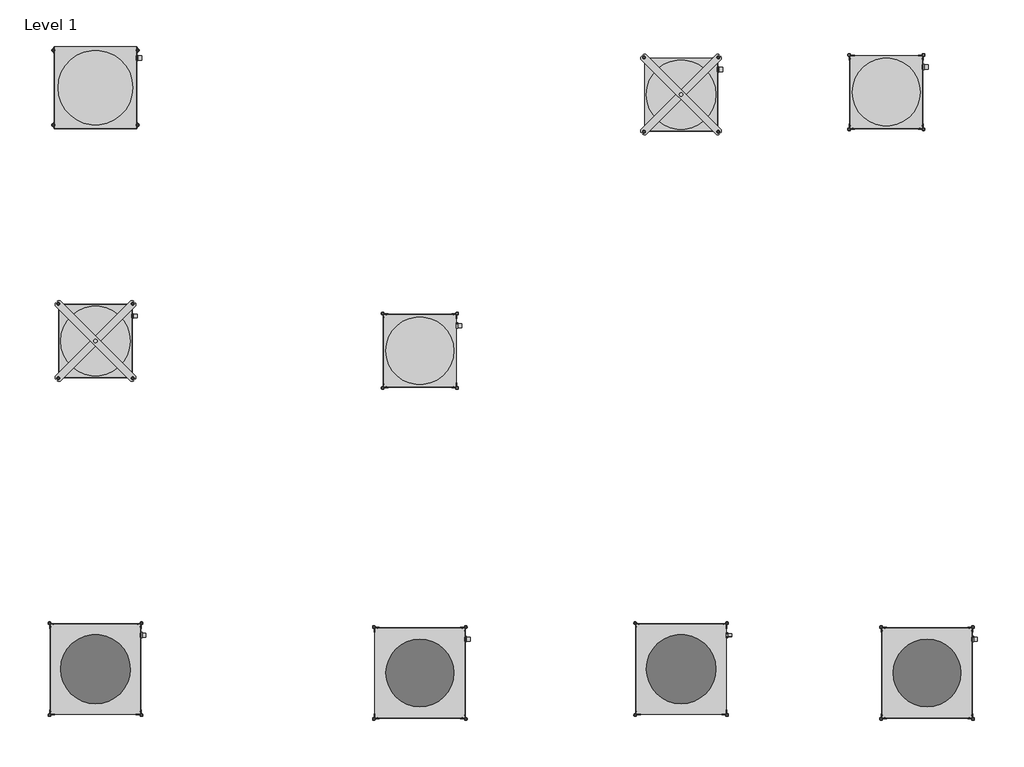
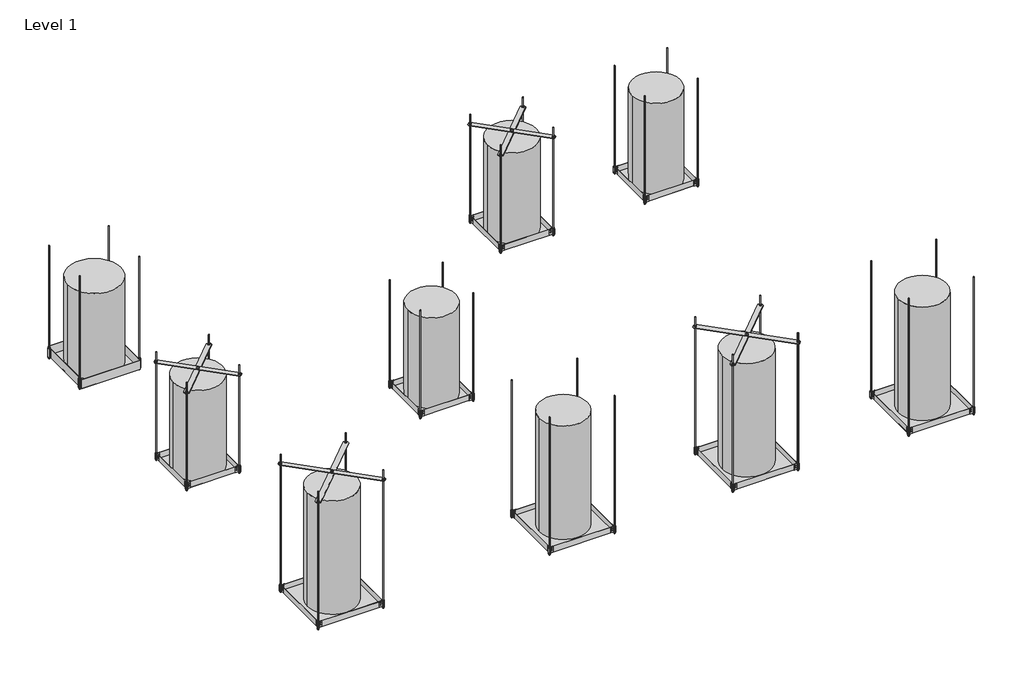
# One storey, incomplete: 9 proxies.
"""IFC4 building model written with IfcOpenShell, lengths in millimetres."""

from ifc_helpers import new_model, si_unit, origin, place, context, project, spatial, transform, mapped, element, save
from components import generic_models_fac79ffb, generic_models_c016bd41, generic_models_ff12452c, generic_models_013b3a9d, generic_models_5859b9d8, generic_models_3af2dc0f, generic_models_e5ff88b9, generic_models_8b985dce, generic_models_0f8f715c, generic_models_b93eb1c8, generic_models_0aff265f, generic_models_6d0b2e81, generic_models_3e2087b7, generic_models_5c8b9ebe, generic_models_eae7145c, generic_models_44c01e28

model = new_model("IFC4")

# Units and contexts
model_context = context("Model", 3, world=origin())
ifc_project = project(units=[si_unit("LENGTHUNIT", "METRE", prefix="MILLI")], contexts=[model_context])

# Site, building, storey
site = spatial("IfcSite", under=ifc_project)
building = spatial("IfcBuilding", under=site)
storey = spatial("IfcBuildingStorey", under=building, Name="Level 1", Elevation=0.0)

# Proxies
placement = place(None, origin())
generic_models_shape = generic_models_fac79ffb(model_context)
element("IfcBuildingElementProxy", 1, Name="30 SWHP-M : #30-SWHP-M", ObjectType="30 SWHP-M : #30-SWHP-M", at=placement, inside=storey, context=model_context, shape_type="MappedRepresentation", body=[
    mapped(generic_models_shape, transform((-12167.136464, 9582.0195807, 0.0), x_axis=(1.0, 0.0, 0.0), y_axis=(0.0, 1.0, 0.0), z_axis=(0.0, 0.0, 1.0))),
])
generic_models_2_shape = generic_models_c016bd41(model_context)
generic_models_3_shape = generic_models_ff12452c(model_context)
generic_models_4_shape = generic_models_013b3a9d(model_context)
element("IfcBuildingElementProxy", 2, Name="40 SWHP : #40-SWHP", ObjectType="40 SWHP : #40-SWHP", at=placement, inside=storey, context=model_context, shape_type="MappedRepresentation", body=[
    mapped(generic_models_2_shape, transform((-7777.5860395, 9834.8538919, 0.0), x_axis=(1.0, 0.0, 0.0), y_axis=(0.0, 1.0, 0.0), z_axis=(0.0, 0.0, 1.0))),
    mapped(generic_models_3_shape, transform((-7777.5860395, 9834.8538919, 0.0), x_axis=(1.0, 0.0, 0.0), y_axis=(0.0, 1.0, 0.0), z_axis=(0.0, 0.0, 1.0))),
    mapped(generic_models_4_shape, transform((-7777.5860395, 9834.8538919, 0.0), x_axis=(1.0, 0.0, 0.0), y_axis=(0.0, 1.0, 0.0), z_axis=(0.0, 0.0, 1.0))),
])
generic_models_5_shape = generic_models_5859b9d8(model_context)
generic_models_6_shape = generic_models_3af2dc0f(model_context)
element("IfcBuildingElementProxy", 3, Name="40 SWHP-A : #40-SWHP-A", ObjectType="40 SWHP-A : #40-SWHP-A", at=placement, inside=storey, context=model_context, shape_type="MappedRepresentation", body=[
    mapped(generic_models_5_shape, transform((-6239.5224196, 9582.0195807, 0.0), x_axis=(1.0, 0.0, 0.0), y_axis=(0.0, 1.0, 0.0), z_axis=(0.0, 0.0, 1.0))),
    mapped(generic_models_6_shape, transform((-6239.5224196, 9582.0195807, 0.0), x_axis=(1.0, 0.0, 0.0), y_axis=(0.0, 1.0, 0.0), z_axis=(0.0, 0.0, 1.0))),
])
element("IfcBuildingElementProxy", 4, Name="40 SWHP-M : #40-SWHP-M", ObjectType="40 SWHP-M : #40-SWHP-M", at=placement, inside=storey, context=model_context, shape_type="MappedRepresentation", body=[
    mapped(generic_models_5_shape, transform((-9735.6816097, 7643.6599537, 0.0), x_axis=(1.0, 0.0, 0.0), y_axis=(0.0, 1.0, 0.0), z_axis=(0.0, 0.0, 1.0))),
    mapped(generic_models_6_shape, transform((-9735.6816097, 7643.6599537, 0.0), x_axis=(1.0, 0.0, 0.0), y_axis=(0.0, 1.0, 0.0), z_axis=(0.0, 0.0, 1.0))),
])
generic_models_7_shape = generic_models_e5ff88b9(model_context)
generic_models_8_shape = generic_models_8b985dce(model_context)
generic_models_9_shape = generic_models_0f8f715c(model_context)
element("IfcBuildingElementProxy", 5, Name="50 SWHP : #50-SWHP", ObjectType="50 SWHP : #50-SWHP", at=placement, inside=storey, context=model_context, shape_type="MappedRepresentation", body=[
    mapped(generic_models_7_shape, transform((-12167.136464, 5528.7514285, 0.0), x_axis=(1.0, 0.0, 0.0), y_axis=(0.0, 1.0, 0.0), z_axis=(0.0, 0.0, 1.0))),
    mapped(generic_models_8_shape, transform((-12167.136464, 5528.7514285, 0.0), x_axis=(1.0, 0.0, 0.0), y_axis=(0.0, 1.0, 0.0), z_axis=(0.0, 0.0, 1.0))),
    mapped(generic_models_9_shape, transform((-12167.136464, 5528.7514285, 0.0), x_axis=(1.0, 0.0, 0.0), y_axis=(0.0, 1.0, 0.0), z_axis=(0.0, 0.0, 1.0))),
])
generic_models_10_shape = generic_models_b93eb1c8(model_context)
generic_models_11_shape = generic_models_0aff265f(model_context)
element("IfcBuildingElementProxy", 6, Name="50 SWHP-A : #50-SWHP-A", ObjectType="50 SWHP-A : #50-SWHP-A", at=placement, inside=storey, context=model_context, shape_type="MappedRepresentation", body=[
    mapped(generic_models_10_shape, transform((-9735.6816097, 5162.9695305, 0.0), x_axis=(1.0, 0.0, 0.0), y_axis=(0.0, 1.0, 0.0), z_axis=(0.0, 0.0, 1.0))),
    mapped(generic_models_11_shape, transform((-9735.6816097, 5162.9695305, 0.0), x_axis=(1.0, 0.0, 0.0), y_axis=(0.0, 1.0, 0.0), z_axis=(0.0, 0.0, 1.0))),
])
generic_models_12_shape = generic_models_6d0b2e81(model_context)
generic_models_13_shape = generic_models_3e2087b7(model_context)
generic_models_14_shape = generic_models_5c8b9ebe(model_context)
element("IfcBuildingElementProxy", 7, Name="50 SWHP-C : #50-SWHP-C", ObjectType="50 SWHP-C : #50-SWHP-C", at=placement, inside=storey, context=model_context, shape_type="MappedRepresentation", body=[
    mapped(generic_models_12_shape, transform((-7777.5860395, 5528.7514285, 0.0), x_axis=(1.0, 0.0, 0.0), y_axis=(0.0, 1.0, 0.0), z_axis=(0.0, 0.0, 1.0))),
    mapped(generic_models_13_shape, transform((-7777.5860395, 5528.7514285, 0.0), x_axis=(1.0, 0.0, 0.0), y_axis=(0.0, 1.0, 0.0), z_axis=(0.0, 0.0, 1.0))),
    mapped(generic_models_14_shape, transform((-7777.5860395, 5528.7514285, 0.0), x_axis=(1.0, 0.0, 0.0), y_axis=(0.0, 1.0, 0.0), z_axis=(0.0, 0.0, 1.0))),
])
generic_models_15_shape = generic_models_eae7145c(model_context)
generic_models_16_shape = generic_models_44c01e28(model_context)
element("IfcBuildingElementProxy", 8, Name="40 SWHP-C : #40-SWHP-C", ObjectType="40 SWHP-C : #40-SWHP-C", at=placement, inside=storey, context=model_context, shape_type="MappedRepresentation", body=[
    mapped(generic_models_2_shape, transform((-12167.136464, 7987.8274669, 0.0), x_axis=(1.0, 0.0, 0.0), y_axis=(0.0, 1.0, 0.0), z_axis=(0.0, 0.0, 1.0))),
    mapped(generic_models_15_shape, transform((-12167.136464, 7987.8274669, 0.0), x_axis=(1.0, 0.0, 0.0), y_axis=(0.0, 1.0, 0.0), z_axis=(0.0, 0.0, 1.0))),
    mapped(generic_models_16_shape, transform((-12167.136464, 7987.8274669, 0.0), x_axis=(1.0, 0.0, 0.0), y_axis=(0.0, 1.0, 0.0), z_axis=(0.0, 0.0, 1.0))),
])
element("IfcBuildingElementProxy", 9, Name="50 SWHP-M : #50-SWHP-M", ObjectType="50 SWHP-M : #50-SWHP-M", at=placement, inside=storey, context=model_context, shape_type="MappedRepresentation", body=[
    mapped(generic_models_10_shape, transform((-5934.3796799, 5162.9695305, 0.0), x_axis=(1.0, 0.0, 0.0), y_axis=(0.0, 1.0, 0.0), z_axis=(0.0, 0.0, 1.0))),
    mapped(generic_models_11_shape, transform((-5934.3796799, 5162.9695305, 0.0), x_axis=(1.0, 0.0, 0.0), y_axis=(0.0, 1.0, 0.0), z_axis=(0.0, 0.0, 1.0))),
])

save(model, "model.ifc")
